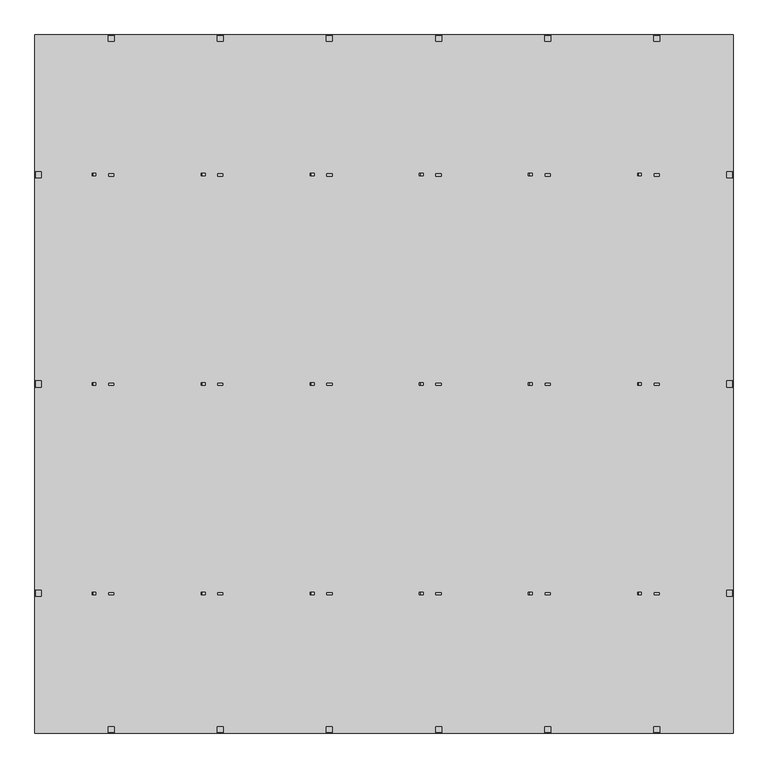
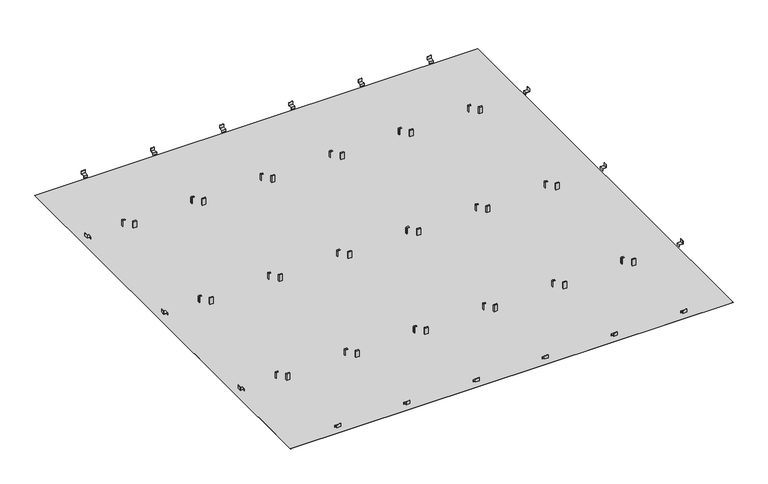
"""IFC4 building model written with IfcOpenShell, lengths in millimetres: proxy geometry, durlum_FLUID-L : durlum_FLUID-L."""

from ifc_helpers import new_model, si_unit, point, frame, frame_2d, origin, place, context, project, spatial, polyline, circle_curve, trimmed, segment, composite_curve, outline, extrude, source, transform, mapped, element, save


def generic_models_99a092aa(model_context):
    return source(origin(), model_context, "Body", "SweptSolid", [
        extrude(outline(polyline([(2000.0, 2057.0), (1966.0, 2057.0), (1966.0, 2039.0), (1965.0, 2039.0), (1965.0, 2058.0), (1999.0, 2058.0), (1999.0, 2086.0), (2000.0, 2086.0), (2000.0, 2057.0)])), frame((920.1800527, 0.0, 0.0), z_axis=(1.0, 0.0, 0.0), x_axis=(0.0, 1.0, 0.0)), (0.0, 0.0, 1.0), 34.6398947),
        extrude(outline(polyline([(2000.0, 2057.0), (1966.0, 2057.0), (1966.0, 2039.0), (1965.0, 2039.0), (1965.0, 2058.0), (1999.0, 2058.0), (1999.0, 2086.0), (2000.0, 2086.0), (2000.0, 2057.0)])), frame((295.1800527, 0.0, 0.0), z_axis=(1.0, 0.0, 0.0), x_axis=(0.0, 1.0, 0.0)), (0.0, 0.0, 1.0), 34.6398947),
        extrude(outline(polyline([(-2000.0, 2057.0), (-2000.0, 2086.0), (-1999.0, 2086.0), (-1999.0, 2058.0), (-1965.0, 2058.0), (-1965.0, 2039.0), (-1966.0, 2039.0), (-1966.0, 2057.0), (-2000.0, 2057.0)])), frame((920.1800527, 0.0, 0.0), z_axis=(1.0, 0.0, 0.0), x_axis=(0.0, 1.0, 0.0)), (0.0, 0.0, 1.0), 34.6398947),
        extrude(outline(polyline([(-2000.0, 2057.0), (-2000.0, 2086.0), (-1999.0, 2086.0), (-1999.0, 2058.0), (-1965.0, 2058.0), (-1965.0, 2039.0), (-1966.0, 2039.0), (-1966.0, 2057.0), (-2000.0, 2057.0)])), frame((295.1800527, 0.0, 0.0), z_axis=(1.0, 0.0, 0.0), x_axis=(0.0, 1.0, 0.0)), (0.0, 0.0, 1.0), 34.6398947),
        extrude(outline(polyline([(952.5, 3.6253613), (952.5, -8.4811477), (922.5, -8.4811477), (922.5, 3.6253613), (952.5, 3.6253613)])), frame((0.0, 0.0, 2028.8069112), z_axis=(0.0, 0.0, 1.0), x_axis=(1.0, 0.0, 0.0)), (0.0, 0.0, 1.0), 59.2290353),
        extrude(outline(polyline([(327.5, 3.6253613), (327.5, -8.4811477), (297.5, -8.4811477), (297.5, 3.6253613), (327.5, 3.6253613)])), frame((0.0, 0.0, 2028.8069112), z_axis=(0.0, 0.0, 1.0), x_axis=(1.0, 0.0, 0.0)), (0.0, 0.0, 1.0), 59.2290353),
        extrude(outline(polyline([(-297.5, 3.6253613), (-297.5, -8.4811477), (-327.5, -8.4811477), (-327.5, 3.6253613), (-297.5, 3.6253613)])), frame((0.0, 0.0, 2028.8069112), z_axis=(0.0, 0.0, 1.0), x_axis=(1.0, 0.0, 0.0)), (0.0, 0.0, 1.0), 59.2290353),
        extrude(outline(polyline([(-922.5, 3.6253613), (-922.5, -8.4811477), (-952.5, -8.4811477), (-952.5, 3.6253613), (-922.5, 3.6253613)])), frame((0.0, 0.0, 2028.8069112), z_axis=(0.0, 0.0, 1.0), x_axis=(1.0, 0.0, 0.0)), (0.0, 0.0, 1.0), 59.2290353),
        extrude(outline(polyline([(1577.5, 3.6253613), (1577.5, -8.4811477), (1547.5, -8.4811477), (1547.5, 3.6253613), (1577.5, 3.6253613)])), frame((0.0, 0.0, 2028.8069112), z_axis=(0.0, 0.0, 1.0), x_axis=(1.0, 0.0, 0.0)), (0.0, 0.0, 1.0), 59.2290353),
        extrude(outline(polyline([(-1547.5, 3.6253613), (-1547.5, -8.4811477), (-1577.5, -8.4811477), (-1577.5, 3.6253613), (-1547.5, 3.6253613)])), frame((0.0, 0.0, 2028.8069112), z_axis=(0.0, 0.0, 1.0), x_axis=(1.0, 0.0, 0.0)), (0.0, 0.0, 1.0), 59.2290353),
        extrude(outline(composite_curve([segment(polyline([(2131.0, -1047.5), (2079.0, -1047.5), (2079.0, -1045.5294653), (2131.0321248, -1045.5294653)]), True, "CONTINUOUS"), segment(trimmed(circle_curve(frame_2d((2131.0321248, -1043.5294653)), 2.0), [point((2131.0321248, -1045.5294653))], [point((2133.0321248, -1043.5294653))], True, "CARTESIAN"), True, "CONTINUOUS"), segment(polyline([(2133.0321248, -1043.5294653), (2133.0321248, -1025.3), (2135.0, -1025.3), (2135.0, -1043.5)]), True, "CONTINUOUS"), segment(trimmed(circle_curve(frame_2d((2131.0, -1043.5)), 4.0), [point((2135.0, -1043.5))], [point((2131.0, -1047.5))], False, "CARTESIAN"), True, "CONTINUOUS")], self_intersect=False)), frame((0.0, -7.0, 0.0), z_axis=(0.0, 1.0, 0.0), x_axis=(0.0, 0.0, 1.0)), (0.0, 0.0, 1.0), 14.0),
        extrude(outline(composite_curve([segment(polyline([(2131.0, -422.5), (2079.0, -422.5), (2079.0, -420.5294653), (2131.0321248, -420.5294653)]), True, "CONTINUOUS"), segment(trimmed(circle_curve(frame_2d((2131.0321248, -418.5294653)), 2.0), [point((2131.0321248, -420.5294653))], [point((2133.0321248, -418.5294653))], True, "CARTESIAN"), True, "CONTINUOUS"), segment(polyline([(2133.0321248, -418.5294653), (2133.0321248, -400.3), (2135.0, -400.3), (2135.0, -418.5)]), True, "CONTINUOUS"), segment(trimmed(circle_curve(frame_2d((2131.0, -418.5)), 4.0), [point((2135.0, -418.5))], [point((2131.0, -422.5))], False, "CARTESIAN"), True, "CONTINUOUS")], self_intersect=False)), frame((0.0, -7.0, 0.0), z_axis=(0.0, 1.0, 0.0), x_axis=(0.0, 0.0, 1.0)), (0.0, 0.0, 1.0), 14.0),
        extrude(outline(composite_curve([segment(polyline([(2131.0, 202.5), (2079.0, 202.5), (2079.0, 204.4705347), (2131.0321248, 204.4705347)]), True, "CONTINUOUS"), segment(trimmed(circle_curve(frame_2d((2131.0321248, 206.4705347)), 2.0), [point((2131.0321248, 204.4705347))], [point((2133.0321248, 206.4705347))], True, "CARTESIAN"), True, "CONTINUOUS"), segment(polyline([(2133.0321248, 206.4705347), (2133.0321248, 224.7), (2135.0, 224.7), (2135.0, 206.5)]), True, "CONTINUOUS"), segment(trimmed(circle_curve(frame_2d((2131.0, 206.5)), 4.0), [point((2135.0, 206.5))], [point((2131.0, 202.5))], False, "CARTESIAN"), True, "CONTINUOUS")], self_intersect=False)), frame((0.0, -7.0, 0.0), z_axis=(0.0, 1.0, 0.0), x_axis=(0.0, 0.0, 1.0)), (0.0, 0.0, 1.0), 14.0),
        extrude(outline(composite_curve([segment(polyline([(2131.0, 827.5), (2079.0, 827.5), (2079.0, 829.4705347), (2131.0321248, 829.4705347)]), True, "CONTINUOUS"), segment(trimmed(circle_curve(frame_2d((2131.0321248, 831.4705347)), 2.0), [point((2131.0321248, 829.4705347))], [point((2133.0321248, 831.4705347))], True, "CARTESIAN"), True, "CONTINUOUS"), segment(polyline([(2133.0321248, 831.4705347), (2133.0321248, 849.7), (2135.0, 849.7), (2135.0, 831.5)]), True, "CONTINUOUS"), segment(trimmed(circle_curve(frame_2d((2131.0, 831.5)), 4.0), [point((2135.0, 831.5))], [point((2131.0, 827.5))], False, "CARTESIAN"), True, "CONTINUOUS")], self_intersect=False)), frame((0.0, -7.0, 0.0), z_axis=(0.0, 1.0, 0.0), x_axis=(0.0, 0.0, 1.0)), (0.0, 0.0, 1.0), 14.0),
        extrude(outline(composite_curve([segment(polyline([(2131.0, -1672.5), (2079.0, -1672.5), (2079.0, -1670.5294653), (2131.0321248, -1670.5294653)]), True, "CONTINUOUS"), segment(trimmed(circle_curve(frame_2d((2131.0321248, -1668.5294653)), 2.0), [point((2131.0321248, -1670.5294653))], [point((2133.0321248, -1668.5294653))], True, "CARTESIAN"), True, "CONTINUOUS"), segment(polyline([(2133.0321248, -1668.5294653), (2133.0321248, -1650.3), (2135.0, -1650.3), (2135.0, -1668.5)]), True, "CONTINUOUS"), segment(trimmed(circle_curve(frame_2d((2131.0, -1668.5)), 4.0), [point((2135.0, -1668.5))], [point((2131.0, -1672.5))], False, "CARTESIAN"), True, "CONTINUOUS")], self_intersect=False)), frame((0.0, -7.0, 0.0), z_axis=(0.0, 1.0, 0.0), x_axis=(0.0, 0.0, 1.0)), (0.0, 0.0, 1.0), 14.0),
        extrude(outline(composite_curve([segment(polyline([(2131.0, 1452.5), (2079.0, 1452.5), (2079.0, 1454.4705347), (2131.0321248, 1454.4705347)]), True, "CONTINUOUS"), segment(trimmed(circle_curve(frame_2d((2131.0321248, 1456.4705347)), 2.0), [point((2131.0321248, 1454.4705347))], [point((2133.0321248, 1456.4705347))], True, "CARTESIAN"), True, "CONTINUOUS"), segment(polyline([(2133.0321248, 1456.4705347), (2133.0321248, 1474.7), (2135.0, 1474.7), (2135.0, 1456.5)]), True, "CONTINUOUS"), segment(trimmed(circle_curve(frame_2d((2131.0, 1456.5)), 4.0), [point((2135.0, 1456.5))], [point((2131.0, 1452.5))], False, "CARTESIAN"), True, "CONTINUOUS")], self_intersect=False)), frame((0.0, -7.0, 0.0), z_axis=(0.0, 1.0, 0.0), x_axis=(0.0, 0.0, 1.0)), (0.0, 0.0, 1.0), 14.0),
        extrude(outline(polyline([(2087.0, 2000.0), (2116.0, 2000.0), (2116.0, 1999.0), (2088.0, 1999.0), (2088.0, 1965.0), (2069.0, 1965.0), (2069.0, 1966.0), (2087.0, 1966.0), (2087.0, 2000.0)])), frame((0.0, -17.3199473, 0.0), z_axis=(0.0, 1.0, 0.0), x_axis=(0.0, 0.0, 1.0)), (0.0, 0.0, 1.0), 34.6398947),
        extrude(outline(polyline([(2087.0, -2000.0), (2087.0, -1966.0), (2069.0, -1966.0), (2069.0, -1965.0), (2088.0, -1965.0), (2088.0, -1999.0), (2116.0, -1999.0), (2116.0, -2000.0), (2087.0, -2000.0)])), frame((0.0, -17.3199473, 0.0), z_axis=(0.0, 1.0, 0.0), x_axis=(0.0, 0.0, 1.0)), (0.0, 0.0, 1.0), 34.6398947),
        extrude(outline(polyline([(-2000.0, 2057.0), (-2000.0, 2086.0), (-1999.0, 2086.0), (-1999.0, 2058.0), (-1965.0, 2058.0), (-1965.0, 2039.0), (-1966.0, 2039.0), (-1966.0, 2057.0), (-2000.0, 2057.0)])), frame((-329.8199473, 0.0, 0.0), z_axis=(1.0, 0.0, 0.0), x_axis=(0.0, 1.0, 0.0)), (0.0, 0.0, 1.0), 34.6398947),
        extrude(outline(polyline([(-2000.0, 2057.0), (-2000.0, 2086.0), (-1999.0, 2086.0), (-1999.0, 2058.0), (-1965.0, 2058.0), (-1965.0, 2039.0), (-1966.0, 2039.0), (-1966.0, 2057.0), (-2000.0, 2057.0)])), frame((-954.8199473, 0.0, 0.0), z_axis=(1.0, 0.0, 0.0), x_axis=(0.0, 1.0, 0.0)), (0.0, 0.0, 1.0), 34.6398947),
        extrude(outline(polyline([(2000.0, 2057.0), (1966.0, 2057.0), (1966.0, 2039.0), (1965.0, 2039.0), (1965.0, 2058.0), (1999.0, 2058.0), (1999.0, 2086.0), (2000.0, 2086.0), (2000.0, 2057.0)])), frame((-329.8199473, 0.0, 0.0), z_axis=(1.0, 0.0, 0.0), x_axis=(0.0, 1.0, 0.0)), (0.0, 0.0, 1.0), 34.6398947),
        extrude(outline(polyline([(2000.0, 2057.0), (1966.0, 2057.0), (1966.0, 2039.0), (1965.0, 2039.0), (1965.0, 2058.0), (1999.0, 2058.0), (1999.0, 2086.0), (2000.0, 2086.0), (2000.0, 2057.0)])), frame((-954.8199473, 0.0, 0.0), z_axis=(1.0, 0.0, 0.0), x_axis=(0.0, 1.0, 0.0)), (0.0, 0.0, 1.0), 34.6398947),
        extrude(outline(polyline([(2000.0, 2057.0), (1966.0, 2057.0), (1966.0, 2039.0), (1965.0, 2039.0), (1965.0, 2058.0), (1999.0, 2058.0), (1999.0, 2086.0), (2000.0, 2086.0), (2000.0, 2057.0)])), frame((1545.1800527, 0.0, 0.0), z_axis=(1.0, 0.0, 0.0), x_axis=(0.0, 1.0, 0.0)), (0.0, 0.0, 1.0), 34.6398947),
        extrude(outline(polyline([(-2000.0, 2057.0), (-2000.0, 2086.0), (-1999.0, 2086.0), (-1999.0, 2058.0), (-1965.0, 2058.0), (-1965.0, 2039.0), (-1966.0, 2039.0), (-1966.0, 2057.0), (-2000.0, 2057.0)])), frame((1545.1800527, 0.0, 0.0), z_axis=(1.0, 0.0, 0.0), x_axis=(0.0, 1.0, 0.0)), (0.0, 0.0, 1.0), 34.6398947),
        extrude(outline(polyline([(-2000.0, 2057.0), (-2000.0, 2086.0), (-1999.0, 2086.0), (-1999.0, 2058.0), (-1965.0, 2058.0), (-1965.0, 2039.0), (-1966.0, 2039.0), (-1966.0, 2057.0), (-2000.0, 2057.0)])), frame((-1579.8199473, 0.0, 0.0), z_axis=(1.0, 0.0, 0.0), x_axis=(0.0, 1.0, 0.0)), (0.0, 0.0, 1.0), 34.6398947),
        extrude(outline(polyline([(2000.0, 2057.0), (1966.0, 2057.0), (1966.0, 2039.0), (1965.0, 2039.0), (1965.0, 2058.0), (1999.0, 2058.0), (1999.0, 2086.0), (2000.0, 2086.0), (2000.0, 2057.0)])), frame((-1579.8199473, 0.0, 0.0), z_axis=(1.0, 0.0, 0.0), x_axis=(0.0, 1.0, 0.0)), (0.0, 0.0, 1.0), 34.6398947),
        extrude(outline(polyline([(952.5, -1196.3746387), (952.5, -1208.4811477), (922.5, -1208.4811477), (922.5, -1196.3746387), (952.5, -1196.3746387)])), frame((0.0, 0.0, 2028.8069112), z_axis=(0.0, 0.0, 1.0), x_axis=(1.0, 0.0, 0.0)), (0.0, 0.0, 1.0), 59.2290353),
        extrude(outline(polyline([(327.5, -1196.3746387), (327.5, -1208.4811477), (297.5, -1208.4811477), (297.5, -1196.3746387), (327.5, -1196.3746387)])), frame((0.0, 0.0, 2028.8069112), z_axis=(0.0, 0.0, 1.0), x_axis=(1.0, 0.0, 0.0)), (0.0, 0.0, 1.0), 59.2290353),
        extrude(outline(polyline([(-297.5, -1196.3746387), (-297.5, -1208.4811477), (-327.5, -1208.4811477), (-327.5, -1196.3746387), (-297.5, -1196.3746387)])), frame((0.0, 0.0, 2028.8069112), z_axis=(0.0, 0.0, 1.0), x_axis=(1.0, 0.0, 0.0)), (0.0, 0.0, 1.0), 59.2290353),
        extrude(outline(polyline([(-922.5, -1196.3746387), (-922.5, -1208.4811477), (-952.5, -1208.4811477), (-952.5, -1196.3746387), (-922.5, -1196.3746387)])), frame((0.0, 0.0, 2028.8069112), z_axis=(0.0, 0.0, 1.0), x_axis=(1.0, 0.0, 0.0)), (0.0, 0.0, 1.0), 59.2290353),
        extrude(outline(polyline([(1577.5, -1196.3746387), (1577.5, -1208.4811477), (1547.5, -1208.4811477), (1547.5, -1196.3746387), (1577.5, -1196.3746387)])), frame((0.0, 0.0, 2028.8069112), z_axis=(0.0, 0.0, 1.0), x_axis=(1.0, 0.0, 0.0)), (0.0, 0.0, 1.0), 59.2290353),
        extrude(outline(polyline([(-1547.5, -1196.3746387), (-1547.5, -1208.4811477), (-1577.5, -1208.4811477), (-1577.5, -1196.3746387), (-1547.5, -1196.3746387)])), frame((0.0, 0.0, 2028.8069112), z_axis=(0.0, 0.0, 1.0), x_axis=(1.0, 0.0, 0.0)), (0.0, 0.0, 1.0), 59.2290353),
        extrude(outline(composite_curve([segment(polyline([(2131.0, -1047.5), (2079.0, -1047.5), (2079.0, -1045.5294653), (2131.0321248, -1045.5294653)]), True, "CONTINUOUS"), segment(trimmed(circle_curve(frame_2d((2131.0321248, -1043.5294653)), 2.0), [point((2131.0321248, -1045.5294653))], [point((2133.0321248, -1043.5294653))], True, "CARTESIAN"), True, "CONTINUOUS"), segment(polyline([(2133.0321248, -1043.5294653), (2133.0321248, -1025.3), (2135.0, -1025.3), (2135.0, -1043.5)]), True, "CONTINUOUS"), segment(trimmed(circle_curve(frame_2d((2131.0, -1043.5)), 4.0), [point((2135.0, -1043.5))], [point((2131.0, -1047.5))], False, "CARTESIAN"), True, "CONTINUOUS")], self_intersect=False)), frame((0.0, -1207.0, 0.0), z_axis=(0.0, 1.0, 0.0), x_axis=(0.0, 0.0, 1.0)), (0.0, 0.0, 1.0), 14.0),
        extrude(outline(composite_curve([segment(polyline([(2131.0, -422.5), (2079.0, -422.5), (2079.0, -420.5294653), (2131.0321248, -420.5294653)]), True, "CONTINUOUS"), segment(trimmed(circle_curve(frame_2d((2131.0321248, -418.5294653)), 2.0), [point((2131.0321248, -420.5294653))], [point((2133.0321248, -418.5294653))], True, "CARTESIAN"), True, "CONTINUOUS"), segment(polyline([(2133.0321248, -418.5294653), (2133.0321248, -400.3), (2135.0, -400.3), (2135.0, -418.5)]), True, "CONTINUOUS"), segment(trimmed(circle_curve(frame_2d((2131.0, -418.5)), 4.0), [point((2135.0, -418.5))], [point((2131.0, -422.5))], False, "CARTESIAN"), True, "CONTINUOUS")], self_intersect=False)), frame((0.0, -1207.0, 0.0), z_axis=(0.0, 1.0, 0.0), x_axis=(0.0, 0.0, 1.0)), (0.0, 0.0, 1.0), 14.0),
        extrude(outline(composite_curve([segment(polyline([(2131.0, 202.5), (2079.0, 202.5), (2079.0, 204.4705347), (2131.0321248, 204.4705347)]), True, "CONTINUOUS"), segment(trimmed(circle_curve(frame_2d((2131.0321248, 206.4705347)), 2.0), [point((2131.0321248, 204.4705347))], [point((2133.0321248, 206.4705347))], True, "CARTESIAN"), True, "CONTINUOUS"), segment(polyline([(2133.0321248, 206.4705347), (2133.0321248, 224.7), (2135.0, 224.7), (2135.0, 206.5)]), True, "CONTINUOUS"), segment(trimmed(circle_curve(frame_2d((2131.0, 206.5)), 4.0), [point((2135.0, 206.5))], [point((2131.0, 202.5))], False, "CARTESIAN"), True, "CONTINUOUS")], self_intersect=False)), frame((0.0, -1207.0, 0.0), z_axis=(0.0, 1.0, 0.0), x_axis=(0.0, 0.0, 1.0)), (0.0, 0.0, 1.0), 14.0),
        extrude(outline(composite_curve([segment(polyline([(2131.0, 827.5), (2079.0, 827.5), (2079.0, 829.4705347), (2131.0321248, 829.4705347)]), True, "CONTINUOUS"), segment(trimmed(circle_curve(frame_2d((2131.0321248, 831.4705347)), 2.0), [point((2131.0321248, 829.4705347))], [point((2133.0321248, 831.4705347))], True, "CARTESIAN"), True, "CONTINUOUS"), segment(polyline([(2133.0321248, 831.4705347), (2133.0321248, 849.7), (2135.0, 849.7), (2135.0, 831.5)]), True, "CONTINUOUS"), segment(trimmed(circle_curve(frame_2d((2131.0, 831.5)), 4.0), [point((2135.0, 831.5))], [point((2131.0, 827.5))], False, "CARTESIAN"), True, "CONTINUOUS")], self_intersect=False)), frame((0.0, -1207.0, 0.0), z_axis=(0.0, 1.0, 0.0), x_axis=(0.0, 0.0, 1.0)), (0.0, 0.0, 1.0), 14.0),
        extrude(outline(composite_curve([segment(polyline([(2131.0, -1672.5), (2079.0, -1672.5), (2079.0, -1670.5294653), (2131.0321248, -1670.5294653)]), True, "CONTINUOUS"), segment(trimmed(circle_curve(frame_2d((2131.0321248, -1668.5294653)), 2.0), [point((2131.0321248, -1670.5294653))], [point((2133.0321248, -1668.5294653))], True, "CARTESIAN"), True, "CONTINUOUS"), segment(polyline([(2133.0321248, -1668.5294653), (2133.0321248, -1650.3), (2135.0, -1650.3), (2135.0, -1668.5)]), True, "CONTINUOUS"), segment(trimmed(circle_curve(frame_2d((2131.0, -1668.5)), 4.0), [point((2135.0, -1668.5))], [point((2131.0, -1672.5))], False, "CARTESIAN"), True, "CONTINUOUS")], self_intersect=False)), frame((0.0, -1207.0, 0.0), z_axis=(0.0, 1.0, 0.0), x_axis=(0.0, 0.0, 1.0)), (0.0, 0.0, 1.0), 14.0),
        extrude(outline(composite_curve([segment(polyline([(2131.0, 1452.5), (2079.0, 1452.5), (2079.0, 1454.4705347), (2131.0321248, 1454.4705347)]), True, "CONTINUOUS"), segment(trimmed(circle_curve(frame_2d((2131.0321248, 1456.4705347)), 2.0), [point((2131.0321248, 1454.4705347))], [point((2133.0321248, 1456.4705347))], True, "CARTESIAN"), True, "CONTINUOUS"), segment(polyline([(2133.0321248, 1456.4705347), (2133.0321248, 1474.7), (2135.0, 1474.7), (2135.0, 1456.5)]), True, "CONTINUOUS"), segment(trimmed(circle_curve(frame_2d((2131.0, 1456.5)), 4.0), [point((2135.0, 1456.5))], [point((2131.0, 1452.5))], False, "CARTESIAN"), True, "CONTINUOUS")], self_intersect=False)), frame((0.0, -1207.0, 0.0), z_axis=(0.0, 1.0, 0.0), x_axis=(0.0, 0.0, 1.0)), (0.0, 0.0, 1.0), 14.0),
        extrude(outline(polyline([(2087.0, 2000.0), (2116.0, 2000.0), (2116.0, 1999.0), (2088.0, 1999.0), (2088.0, 1965.0), (2069.0, 1965.0), (2069.0, 1966.0), (2087.0, 1966.0), (2087.0, 2000.0)])), frame((0.0, -1217.3199473, 0.0), z_axis=(0.0, 1.0, 0.0), x_axis=(0.0, 0.0, 1.0)), (0.0, 0.0, 1.0), 34.6398947),
        extrude(outline(polyline([(2087.0, -2000.0), (2087.0, -1966.0), (2069.0, -1966.0), (2069.0, -1965.0), (2088.0, -1965.0), (2088.0, -1999.0), (2116.0, -1999.0), (2116.0, -2000.0), (2087.0, -2000.0)])), frame((0.0, -1217.3199473, 0.0), z_axis=(0.0, 1.0, 0.0), x_axis=(0.0, 0.0, 1.0)), (0.0, 0.0, 1.0), 34.6398947),
        extrude(outline(polyline([(952.5, 1203.6253613), (952.5, 1191.5188523), (922.5, 1191.5188523), (922.5, 1203.6253613), (952.5, 1203.6253613)])), frame((0.0, 0.0, 2028.8069112), z_axis=(0.0, 0.0, 1.0), x_axis=(1.0, 0.0, 0.0)), (0.0, 0.0, 1.0), 59.2290353),
        extrude(outline(polyline([(327.5, 1203.6253613), (327.5, 1191.5188523), (297.5, 1191.5188523), (297.5, 1203.6253613), (327.5, 1203.6253613)])), frame((0.0, 0.0, 2028.8069112), z_axis=(0.0, 0.0, 1.0), x_axis=(1.0, 0.0, 0.0)), (0.0, 0.0, 1.0), 59.2290353),
        extrude(outline(polyline([(-297.5, 1203.6253613), (-297.5, 1191.5188523), (-327.5, 1191.5188523), (-327.5, 1203.6253613), (-297.5, 1203.6253613)])), frame((0.0, 0.0, 2028.8069112), z_axis=(0.0, 0.0, 1.0), x_axis=(1.0, 0.0, 0.0)), (0.0, 0.0, 1.0), 59.2290353),
        extrude(outline(polyline([(-922.5, 1203.6253613), (-922.5, 1191.5188523), (-952.5, 1191.5188523), (-952.5, 1203.6253613), (-922.5, 1203.6253613)])), frame((0.0, 0.0, 2028.8069112), z_axis=(0.0, 0.0, 1.0), x_axis=(1.0, 0.0, 0.0)), (0.0, 0.0, 1.0), 59.2290353),
        extrude(outline(polyline([(1577.5, 1203.6253613), (1577.5, 1191.5188523), (1547.5, 1191.5188523), (1547.5, 1203.6253613), (1577.5, 1203.6253613)])), frame((0.0, 0.0, 2028.8069112), z_axis=(0.0, 0.0, 1.0), x_axis=(1.0, 0.0, 0.0)), (0.0, 0.0, 1.0), 59.2290353),
        extrude(outline(polyline([(-1547.5, 1203.6253613), (-1547.5, 1191.5188523), (-1577.5, 1191.5188523), (-1577.5, 1203.6253613), (-1547.5, 1203.6253613)])), frame((0.0, 0.0, 2028.8069112), z_axis=(0.0, 0.0, 1.0), x_axis=(1.0, 0.0, 0.0)), (0.0, 0.0, 1.0), 59.2290353),
        extrude(outline(composite_curve([segment(polyline([(2131.0, -1047.5), (2079.0, -1047.5), (2079.0, -1045.5294653), (2131.0321248, -1045.5294653)]), True, "CONTINUOUS"), segment(trimmed(circle_curve(frame_2d((2131.0321248, -1043.5294653)), 2.0), [point((2131.0321248, -1045.5294653))], [point((2133.0321248, -1043.5294653))], True, "CARTESIAN"), True, "CONTINUOUS"), segment(polyline([(2133.0321248, -1043.5294653), (2133.0321248, -1025.3), (2135.0, -1025.3), (2135.0, -1043.5)]), True, "CONTINUOUS"), segment(trimmed(circle_curve(frame_2d((2131.0, -1043.5)), 4.0), [point((2135.0, -1043.5))], [point((2131.0, -1047.5))], False, "CARTESIAN"), True, "CONTINUOUS")], self_intersect=False)), frame((0.0, 1193.0, 0.0), z_axis=(0.0, 1.0, 0.0), x_axis=(0.0, 0.0, 1.0)), (0.0, 0.0, 1.0), 14.0),
        extrude(outline(composite_curve([segment(polyline([(2131.0, -422.5), (2079.0, -422.5), (2079.0, -420.5294653), (2131.0321248, -420.5294653)]), True, "CONTINUOUS"), segment(trimmed(circle_curve(frame_2d((2131.0321248, -418.5294653)), 2.0), [point((2131.0321248, -420.5294653))], [point((2133.0321248, -418.5294653))], True, "CARTESIAN"), True, "CONTINUOUS"), segment(polyline([(2133.0321248, -418.5294653), (2133.0321248, -400.3), (2135.0, -400.3), (2135.0, -418.5)]), True, "CONTINUOUS"), segment(trimmed(circle_curve(frame_2d((2131.0, -418.5)), 4.0), [point((2135.0, -418.5))], [point((2131.0, -422.5))], False, "CARTESIAN"), True, "CONTINUOUS")], self_intersect=False)), frame((0.0, 1193.0, 0.0), z_axis=(0.0, 1.0, 0.0), x_axis=(0.0, 0.0, 1.0)), (0.0, 0.0, 1.0), 14.0),
        extrude(outline(composite_curve([segment(polyline([(2131.0, 202.5), (2079.0, 202.5), (2079.0, 204.4705347), (2131.0321248, 204.4705347)]), True, "CONTINUOUS"), segment(trimmed(circle_curve(frame_2d((2131.0321248, 206.4705347)), 2.0), [point((2131.0321248, 204.4705347))], [point((2133.0321248, 206.4705347))], True, "CARTESIAN"), True, "CONTINUOUS"), segment(polyline([(2133.0321248, 206.4705347), (2133.0321248, 224.7), (2135.0, 224.7), (2135.0, 206.5)]), True, "CONTINUOUS"), segment(trimmed(circle_curve(frame_2d((2131.0, 206.5)), 4.0), [point((2135.0, 206.5))], [point((2131.0, 202.5))], False, "CARTESIAN"), True, "CONTINUOUS")], self_intersect=False)), frame((0.0, 1193.0, 0.0), z_axis=(0.0, 1.0, 0.0), x_axis=(0.0, 0.0, 1.0)), (0.0, 0.0, 1.0), 14.0),
        extrude(outline(composite_curve([segment(polyline([(2131.0, 827.5), (2079.0, 827.5), (2079.0, 829.4705347), (2131.0321248, 829.4705347)]), True, "CONTINUOUS"), segment(trimmed(circle_curve(frame_2d((2131.0321248, 831.4705347)), 2.0), [point((2131.0321248, 829.4705347))], [point((2133.0321248, 831.4705347))], True, "CARTESIAN"), True, "CONTINUOUS"), segment(polyline([(2133.0321248, 831.4705347), (2133.0321248, 849.7), (2135.0, 849.7), (2135.0, 831.5)]), True, "CONTINUOUS"), segment(trimmed(circle_curve(frame_2d((2131.0, 831.5)), 4.0), [point((2135.0, 831.5))], [point((2131.0, 827.5))], False, "CARTESIAN"), True, "CONTINUOUS")], self_intersect=False)), frame((0.0, 1193.0, 0.0), z_axis=(0.0, 1.0, 0.0), x_axis=(0.0, 0.0, 1.0)), (0.0, 0.0, 1.0), 14.0),
        extrude(outline(composite_curve([segment(polyline([(2131.0, -1672.5), (2079.0, -1672.5), (2079.0, -1670.5294653), (2131.0321248, -1670.5294653)]), True, "CONTINUOUS"), segment(trimmed(circle_curve(frame_2d((2131.0321248, -1668.5294653)), 2.0), [point((2131.0321248, -1670.5294653))], [point((2133.0321248, -1668.5294653))], True, "CARTESIAN"), True, "CONTINUOUS"), segment(polyline([(2133.0321248, -1668.5294653), (2133.0321248, -1650.3), (2135.0, -1650.3), (2135.0, -1668.5)]), True, "CONTINUOUS"), segment(trimmed(circle_curve(frame_2d((2131.0, -1668.5)), 4.0), [point((2135.0, -1668.5))], [point((2131.0, -1672.5))], False, "CARTESIAN"), True, "CONTINUOUS")], self_intersect=False)), frame((0.0, 1193.0, 0.0), z_axis=(0.0, 1.0, 0.0), x_axis=(0.0, 0.0, 1.0)), (0.0, 0.0, 1.0), 14.0),
        extrude(outline(composite_curve([segment(polyline([(2131.0, 1452.5), (2079.0, 1452.5), (2079.0, 1454.4705347), (2131.0321248, 1454.4705347)]), True, "CONTINUOUS"), segment(trimmed(circle_curve(frame_2d((2131.0321248, 1456.4705347)), 2.0), [point((2131.0321248, 1454.4705347))], [point((2133.0321248, 1456.4705347))], True, "CARTESIAN"), True, "CONTINUOUS"), segment(polyline([(2133.0321248, 1456.4705347), (2133.0321248, 1474.7), (2135.0, 1474.7), (2135.0, 1456.5)]), True, "CONTINUOUS"), segment(trimmed(circle_curve(frame_2d((2131.0, 1456.5)), 4.0), [point((2135.0, 1456.5))], [point((2131.0, 1452.5))], False, "CARTESIAN"), True, "CONTINUOUS")], self_intersect=False)), frame((0.0, 1193.0, 0.0), z_axis=(0.0, 1.0, 0.0), x_axis=(0.0, 0.0, 1.0)), (0.0, 0.0, 1.0), 14.0),
        extrude(outline(polyline([(2087.0, 2000.0), (2116.0, 2000.0), (2116.0, 1999.0), (2088.0, 1999.0), (2088.0, 1965.0), (2069.0, 1965.0), (2069.0, 1966.0), (2087.0, 1966.0), (2087.0, 2000.0)])), frame((0.0, 1182.6800527, 0.0), z_axis=(0.0, 1.0, 0.0), x_axis=(0.0, 0.0, 1.0)), (0.0, 0.0, 1.0), 34.6398947),
        extrude(outline(polyline([(2087.0, -2000.0), (2087.0, -1966.0), (2069.0, -1966.0), (2069.0, -1965.0), (2088.0, -1965.0), (2088.0, -1999.0), (2116.0, -1999.0), (2116.0, -2000.0), (2087.0, -2000.0)])), frame((0.0, 1182.6800527, 0.0), z_axis=(0.0, 1.0, 0.0), x_axis=(0.0, 0.0, 1.0)), (0.0, 0.0, 1.0), 34.6398947),
        extrude(outline(polyline([(2000.0, -2000.0), (-2000.0, -2000.0), (-2000.0, 2000.0), (2000.0, 2000.0), (2000.0, -2000.0)])), frame((0.0, 0.0, 2000.0), z_axis=(0.0, 0.0, 1.0), x_axis=(1.0, 0.0, 0.0)), (0.0, 0.0, 1.0), 1.0),
    ])


if __name__ == "__main__":
    model = new_model("IFC4")
    model_context = context("Model", 3, world=origin())
    ifc_project = project(units=[si_unit("LENGTHUNIT", "METRE", prefix="MILLI")], contexts=[model_context])
    site = spatial("IfcSite", under=ifc_project)
    building = spatial("IfcBuilding", under=site)
    placement = place(None, origin())
    generic_models_shape = generic_models_99a092aa(model_context)
    element("IfcBuildingElementProxy", 1, Name="durlum_FLUID-L : durlum_FLUID-L", ObjectType="durlum_FLUID-L : durlum_FLUID-L", at=placement, inside=building, context=model_context, shape_type="MappedRepresentation", body=[
        mapped(generic_models_shape, transform((0.0, 0.0, 0.0), x_axis=(1.0, 0.0, 0.0), y_axis=(0.0, 1.0, 0.0), z_axis=(0.0, 0.0, 1.0))),
    ])
    save(model, "model.ifc")
